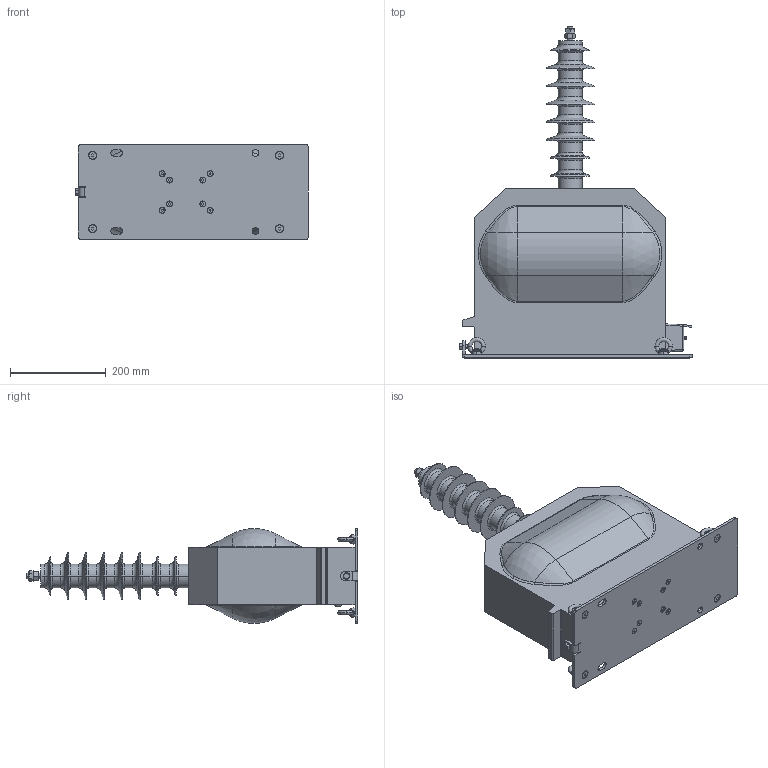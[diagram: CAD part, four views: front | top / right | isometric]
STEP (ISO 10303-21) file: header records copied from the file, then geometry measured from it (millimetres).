
FILE_DESCRIPTION (( 'STEP AP214' ), '1' );
FILE_NAME ('29637-021_FME-36ksz_Körvonal.STEP', '2025-06-28T11:34:05', ( '' ), ( '' ), 'SwSTEP 2.0', 'SolidWorks 2020', '' );
FILE_SCHEMA (( 'AUTOMOTIVE_DESIGN' ));
Length unit declared in the file: millimetre
Products named in the file (1): 29637-021_FME-36ksz_Körvonal
Bounding box: 485.3 x 692.7 x 198 mm (x, y, z)
Volume: 16781472.2 mm3; surface area: 1131217.6 mm2
Topology: 3 solids, 15 shells, 928 faces, 2148 edges, 1300 vertices
Faces by surface type: plane 309, cylinder 279, cone 122, torus 120, bspline 62, sphere 36
Entity records: 32953 total; most frequent: CARTESIAN_POINT 9953, DIRECTION 4610, ORIENTED_EDGE 4260, EDGE_CURVE 2130, AXIS2_PLACEMENT_3D 1827, VERTEX_POINT 1300, EDGE_LOOP 1036, CIRCLE 960
